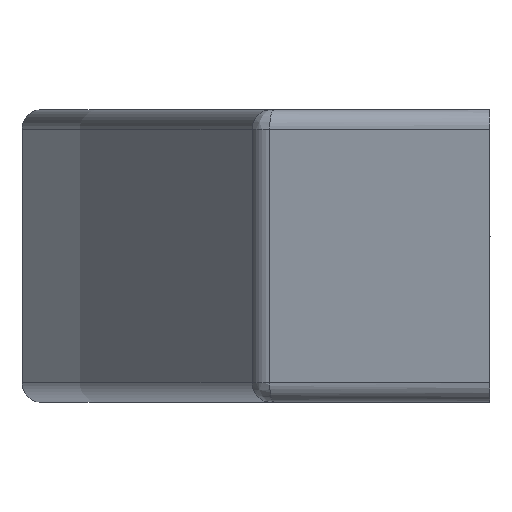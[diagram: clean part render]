
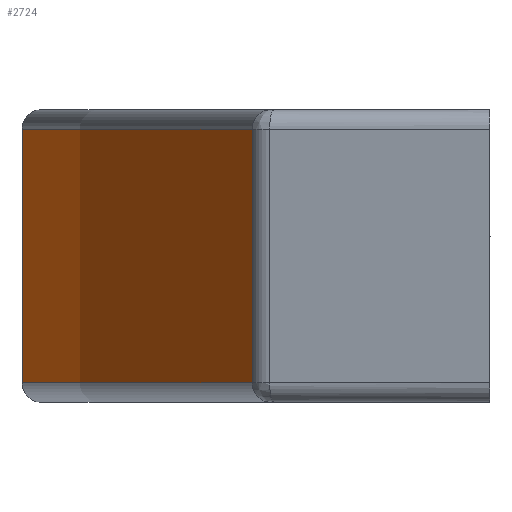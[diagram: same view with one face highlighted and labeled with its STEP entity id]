
A CAD part, left-side view. The second image highlights one B-rep face of the part: STEP entity #2724.
In plain terms, the highlighted cylindrical face has radius 300.057 mm (diameter 600.113 mm), a partial arc.
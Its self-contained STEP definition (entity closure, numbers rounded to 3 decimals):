
#438=LINE('',#6557,#564);
#439=LINE('',#6561,#565);
#564=VECTOR('',#3594,10.);
#565=VECTOR('',#3599,10.);
#606=CYLINDRICAL_SURFACE('',#2989,300.056);
#769=FACE_OUTER_BOUND('',#946,.T.);
#946=EDGE_LOOP('',(#2476,#2477,#2478,#2479));
#1064=CIRCLE('',#2981,300.056);
#1068=CIRCLE('',#2990,300.056);
#1313=VERTEX_POINT('',#6526);
#1314=VERTEX_POINT('',#6530);
#1319=VERTEX_POINT('',#6556);
#1320=VERTEX_POINT('',#6560);
#1711=EDGE_CURVE('',#1313,#1314,#1064,.T.);
#1719=EDGE_CURVE('',#1319,#1314,#438,.T.);
#1721=EDGE_CURVE('',#1320,#1313,#439,.T.);
#1722=EDGE_CURVE('',#1319,#1320,#1068,.T.);
#2476=ORIENTED_EDGE('',*,*,#1711,.F.);
#2477=ORIENTED_EDGE('',*,*,#1721,.F.);
#2478=ORIENTED_EDGE('',*,*,#1722,.F.);
#2479=ORIENTED_EDGE('',*,*,#1719,.T.);
#2724=ADVANCED_FACE('',(#769),#606,.T.);
#2981=AXIS2_PLACEMENT_3D('',#6532,#3576,#3577);
#2989=AXIS2_PLACEMENT_3D('',#6559,#3597,#3598);
#2990=AXIS2_PLACEMENT_3D('',#6562,#3600,#3601);
#3576=DIRECTION('center_axis',(0.,0.,1.));
#3577=DIRECTION('ref_axis',(0.,1.,0.));
#3594=DIRECTION('',(0.,0.,1.));
#3597=DIRECTION('center_axis',(0.,0.,1.));
#3598=DIRECTION('ref_axis',(0.278,0.961,0.));
#3599=DIRECTION('',(0.,0.,1.));
#3600=DIRECTION('center_axis',(0.,0.,-1.));
#3601=DIRECTION('ref_axis',(0.,1.,0.));
#6526=CARTESIAN_POINT('',(83.316,12.201,14.));
#6530=CARTESIAN_POINT('',(-83.316,12.201,14.));
#6532=CARTESIAN_POINT('Origin',(0.,-276.056,
14.));
#6556=CARTESIAN_POINT('',(-83.316,12.201,1.));
#6557=CARTESIAN_POINT('',(-83.316,12.201,0.));
#6559=CARTESIAN_POINT('Origin',(0.,-276.056,
0.));
#6560=CARTESIAN_POINT('',(83.316,12.201,1.));
#6561=CARTESIAN_POINT('',(83.316,12.201,0.));
#6562=CARTESIAN_POINT('Origin',(0.,-276.056,
1.));
